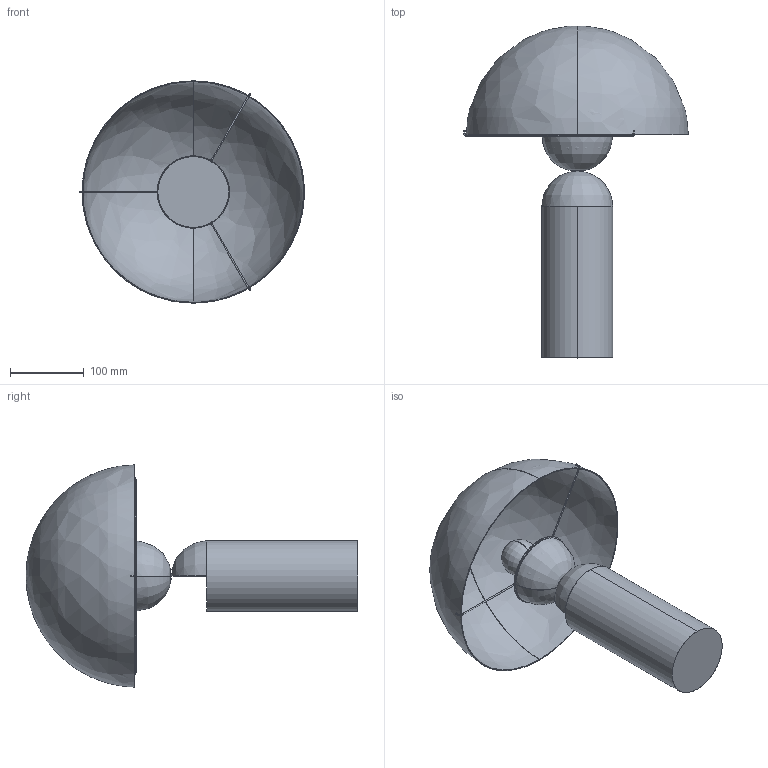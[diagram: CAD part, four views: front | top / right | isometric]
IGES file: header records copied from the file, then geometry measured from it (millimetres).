
Start section: SolidWorks IGES file using analytic representation for surfaces
Global section: file name: F:\燠隴矨\3D\2026-8\Peono Alabaster Table Lamp.IGS,15; native system: HSolidWorks 2022; preprocessor: SolidWorks 2022; author: MyPC; date: 260804.144853; units: millimetre
Bounding box: 304.82 x 450 x 301.34 mm (x, y, z)
Surface area: 412876.6 mm2 (no closed solid volume)
Topology: 0 solids, 0 shells, 96 faces, 1048 edges, 1041 vertices
Faces by surface type: bspline 58, revolution 38
